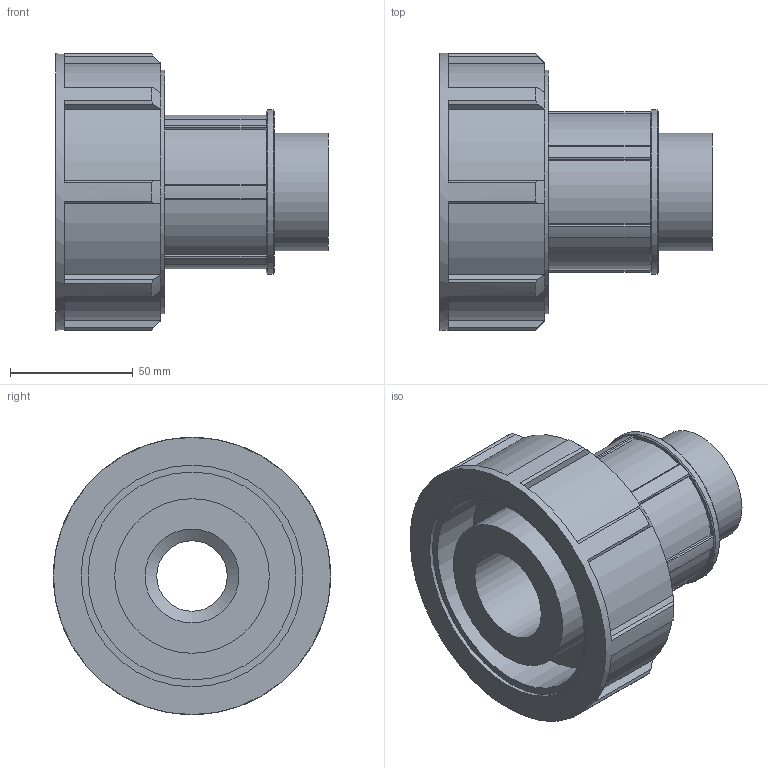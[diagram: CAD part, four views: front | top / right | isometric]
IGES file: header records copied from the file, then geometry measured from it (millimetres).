
Global section: file name: 072500063015_182500063015_0725060630150A.ipt; native system: Autodesk Inventor 2015; preprocessor: unknown; author: KIM; date: 20170608.042202; units: millimetre
Bounding box: 111 x 113 x 113 mm (x, y, z)
Volume: 388331.4 mm3; surface area: 79253.3 mm2
Topology: 1 solids, 1 shells, 115 faces, 322 edges, 217 vertices
Faces by surface type: plane 74, cylinder 25, cone 10, revolution 6
Full cylindrical faces by diameter (mm): 47.803 x1, 63 x1, 66.924 x1, 99.44 x1, 113 x1
